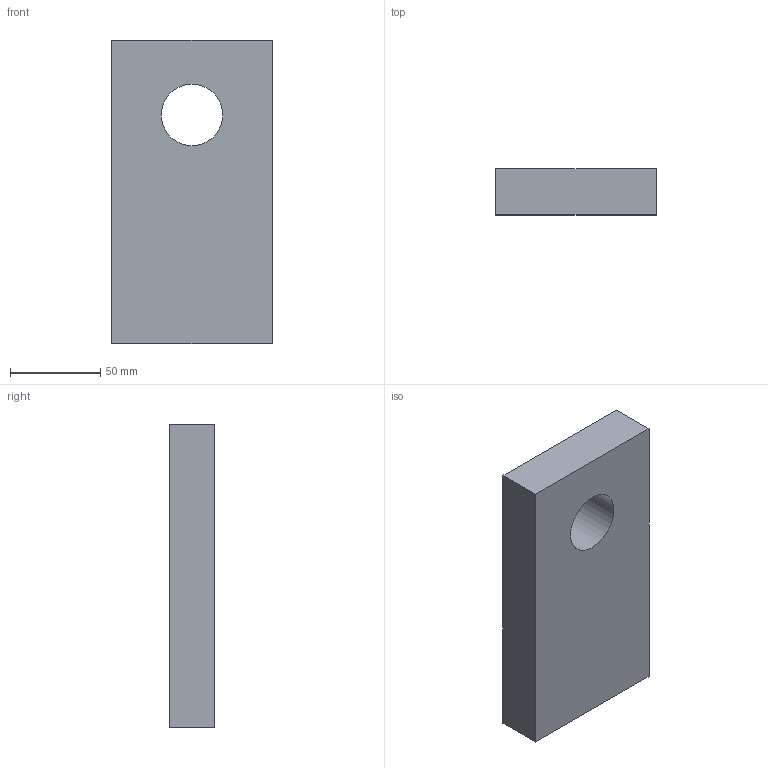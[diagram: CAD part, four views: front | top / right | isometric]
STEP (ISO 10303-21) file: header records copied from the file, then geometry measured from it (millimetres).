
FILE_DESCRIPTION(/* description */ ('STEP AP242 Edition 2','CAx-IF Rec.Pracs.---Representation and Presentation of Product Manufacturing Information (PMI)---4.0---2014-10-13','CAx-IF Rec.Pracs.---3D Tessellated Geometry---0.4---2014-09-14','2;1','CAx-IF Rec.Pracs.---User Defined Attributes---1.5---2016-08-15'),/* implementation_level */ '2;1');
FILE_NAME(/* name */ 'Assembly V2 - Part 6 (3)',/* time_stamp */ '2026-02-05T22:44:42Z',/* author */ (''),/* organization */ (''),/* preprocessor_version */ 'ST-DEVELOPER v20',/* originating_system */ 'ONSHAPE BY PTC INC, 1.210',/* authorisation */ ' ');
FILE_SCHEMA (('AP242_MANAGED_MODEL_BASED_3D_ENGINEERING_MIM_LF { 1 0 10303 442 3 1 4 }'));
Length unit declared in the file: metre
Products named in the file (1): Part 6
Bounding box: 88.9 x 25.4 x 167.93 mm (x, y, z)
Volume: 356123.6 mm3; surface area: 43801 mm2
Topology: 1 solids, 1 shells, 7 faces, 15 edges, 10 vertices
Faces by surface type: plane 6, cylinder 1
Full cylindrical faces by diameter (mm): 34 x1
Entity records: 212 total; most frequent: DIRECTION 32, CARTESIAN_POINT 32, ORIENTED_EDGE 28, EDGE_CURVE 14, LINE 12, VECTOR 12, VERTEX_POINT 10, EDGE_LOOP 10
